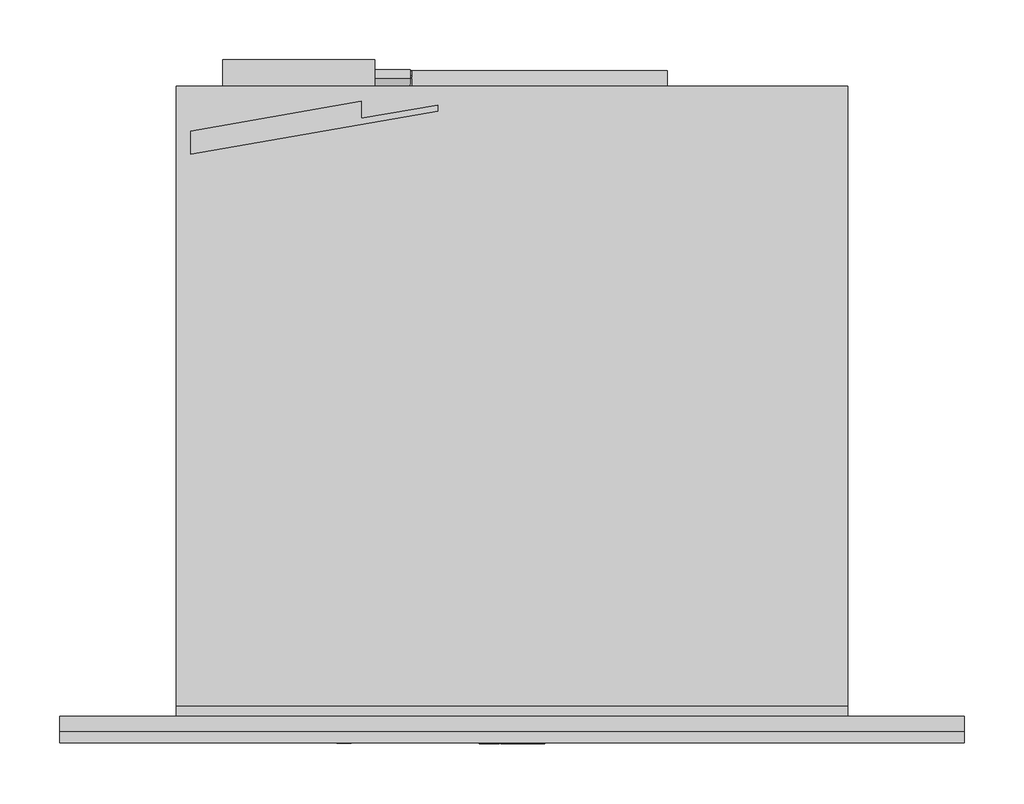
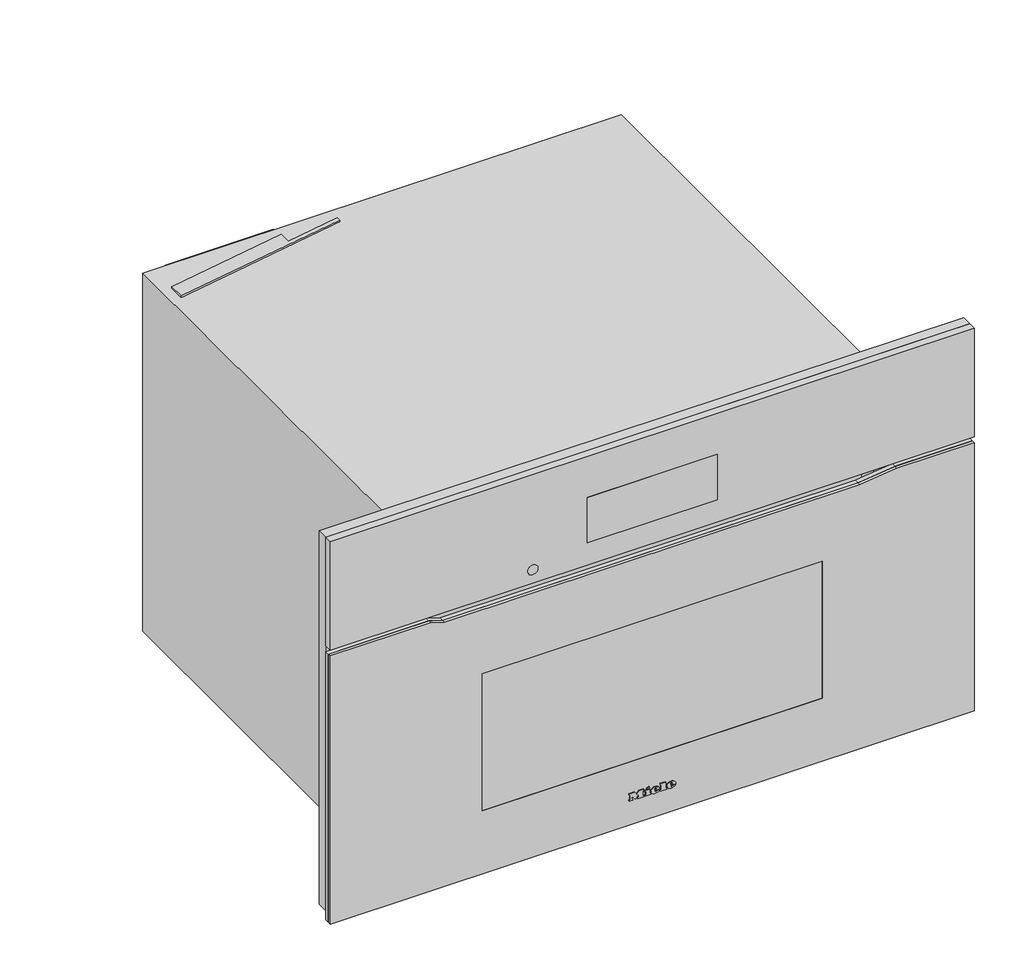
# Not in any storey: 1 proxy.
"""IFC4 building model written with IfcOpenShell, lengths in millimetres."""

import ifcopenshell
import ifcopenshell.guid

model = None  # the IFC model being written
_history = None  # IfcOwnerHistory: only IFC2X3 demands one
_inside = {}  # id of a spatial element -> (the spatial element, [elements in it])
_under = {}  # id of a project, library or spatial element -> (it, [spatial elements below it])
_declared = {}  # id of a project -> (the project, [libraries it declares])
_typed = {}  # id of a type object -> (the type object, [elements of that type])
_made_of = {}  # id of a material, layer set ... -> (it, [elements and type objects made of it])


def new_model(schema):
    """Start an empty IFC model of exactly this schema.

    Asked for "IFC4X3", IfcOpenShell would pick the latest addendum, in which some entities
    have other attributes; the version numbers below select the first issue.
    IFC2X3 requires an IfcOwnerHistory on every rooted entity: one is made here for all.
    """
    global model, _history
    if schema == "IFC4X3":
        model = ifcopenshell.file(schema_version=(4, 3, 0, 0))
    else:
        model = ifcopenshell.file(schema=schema)
    _inside.clear()
    _under.clear()
    _declared.clear()
    _typed.clear()
    _made_of.clear()
    _history = None
    if model.schema == "IFC2X3":
        org = make("IfcOrganization", Name="unknown")
        user = make(
            "IfcPersonAndOrganization",
            ThePerson=make("IfcPerson", FamilyName="unknown"),
            TheOrganization=org,
        )
        app = make(
            "IfcApplication",
            ApplicationDeveloper=org,
            Version="unknown",
            ApplicationFullName="unknown",
            ApplicationIdentifier="unknown",
        )
        _history = make(
            "IfcOwnerHistory",
            OwningUser=user,
            OwningApplication=app,
            ChangeAction="ADDED",
            CreationDate=0,
        )
    return model


def make(cls, **values):
    """One entity of the class cls with the attributes given. An attribute that is None is left unset."""
    return model.create_entity(
        cls, **{name: value for name, value in values.items() if value is not None}
    )


def rooted(cls, **values):
    """An entity with a GlobalId (a new one), such as an element, a storey or a relation."""
    return make(cls, GlobalId=ifcopenshell.guid.new(), OwnerHistory=_history, **values)


def si_unit(unit_type, name, prefix=None):
    """IfcSIUnit, for example si_unit("LENGTHUNIT", "METRE", prefix="MILLI")."""
    return make("IfcSIUnit", UnitType=unit_type, Prefix=prefix, Name=name)


def assignment(units):
    """IfcUnitAssignment: the units of a project."""
    return None if units is None else make("IfcUnitAssignment", Units=units)


def point(xyz):
    """IfcCartesianPoint."""
    return None if xyz is None else make("IfcCartesianPoint", Coordinates=xyz)


def direction(xyz):
    """IfcDirection."""
    return None if xyz is None else make("IfcDirection", DirectionRatios=xyz)


def frame(location, z_axis=None, x_axis=None):
    """IfcAxis2Placement3D, a coordinate frame: its origin and axes. An axis left out is left unset."""
    return make(
        "IfcAxis2Placement3D",
        Location=point(location),
        Axis=direction(z_axis),
        RefDirection=direction(x_axis),
    )


def frame_2d(location, x_axis=None):
    """IfcAxis2Placement2D, a coordinate frame in the plane: its origin and x axis."""
    return make(
        "IfcAxis2Placement2D", Location=point(location), RefDirection=direction(x_axis)
    )


def origin():
    """The frame at (0, 0, 0) with its axes left unset."""
    return frame((0.0, 0.0, 0.0))


def place(relative_to, where):
    """IfcLocalPlacement: puts the frame where relative to a parent placement (None: the world)."""
    return make(
        "IfcLocalPlacement", PlacementRelTo=relative_to, RelativePlacement=where
    )


def context(
    kind, dimensions, precision=None, world=None, true_north=None, identifier=None
):
    """IfcGeometricRepresentationContext, for example the 3D "Model" context."""
    return make(
        "IfcGeometricRepresentationContext",
        ContextIdentifier=identifier,
        ContextType=kind,
        CoordinateSpaceDimension=dimensions,
        Precision=precision,
        WorldCoordinateSystem=world,
        TrueNorth=true_north,
    )


def project(units=None, contexts=None):
    """IfcProject with its units and contexts."""
    return rooted(
        "IfcProject",
        Name="project",
        RepresentationContexts=contexts,
        UnitsInContext=assignment(units),
    )


def spatial(cls, under=None, at=None, **own):
    """A site, building, storey or space (cls), placed at a placement, below another one or the project."""
    s = rooted(cls, ObjectPlacement=at, **own)
    if under is not None:
        _under.setdefault(under.id(), (under, []))[1].append(s)
    return s


def polyline(points):
    """IfcPolyline through the points."""
    return make("IfcPolyline", Points=[point(p) for p in points])


def circle_curve(where, radius):
    """IfcCircle in the frame where."""
    return make("IfcCircle", Position=where, Radius=radius)


def ellipse_curve(where, semi_axis1, semi_axis2):
    """IfcEllipse in the frame where."""
    return make(
        "IfcEllipse", Position=where, SemiAxis1=semi_axis1, SemiAxis2=semi_axis2
    )


def trimmed(basis, trim1, trim2, sense, master):
    """IfcTrimmedCurve: the piece of a basis curve between two trims."""
    return make(
        "IfcTrimmedCurve",
        BasisCurve=basis,
        Trim1=trim1,
        Trim2=trim2,
        SenseAgreement=sense,
        MasterRepresentation=master,
    )


def segment(curve, same_sense, transition):
    """IfcCompositeCurveSegment."""
    return make(
        "IfcCompositeCurveSegment",
        Transition=transition,
        SameSense=same_sense,
        ParentCurve=curve,
    )


def composite_curve(segments, self_intersect=None):
    """IfcCompositeCurve: segments joined end to end."""
    return make("IfcCompositeCurve", Segments=segments, SelfIntersect=self_intersect)


def outline(outer, holes=None, kind="AREA"):
    """IfcArbitraryClosedProfileDef: a profile drawn as a closed curve; with holes, ...WithVoids."""
    if holes is None:
        return make("IfcArbitraryClosedProfileDef", ProfileType=kind, OuterCurve=outer)
    return make(
        "IfcArbitraryProfileDefWithVoids",
        ProfileType=kind,
        OuterCurve=outer,
        InnerCurves=holes,
    )


def extrude(swept, where, along, depth):
    """IfcExtrudedAreaSolid: the profile swept, set in the frame where, extruded along a direction by depth."""
    return make(
        "IfcExtrudedAreaSolid",
        SweptArea=swept,
        Position=where,
        ExtrudedDirection=direction(along),
        Depth=depth,
    )


def faces_of(points, faces, orient=None, outer=None):
    """IfcFace entities. A face is a list of loops; a loop is a list of indices into points, from 0.

    orient and outer hold one flag for each loop. By default every Orientation is true, the
    first loop of a face is its IfcFaceOuterBound and the others are IfcFaceBound.
    """
    made = []
    for i, loops in enumerate(faces):
        bounds = []
        for j, loop in enumerate(loops):
            is_outer = j == 0 if outer is None else outer[i][j]
            bounds.append(
                make(
                    "IfcFaceOuterBound" if is_outer else "IfcFaceBound",
                    Bound=make("IfcPolyLoop", Polygon=[points[k] for k in loop]),
                    Orientation=True if orient is None else orient[i][j],
                )
            )
        made.append(make("IfcFace", Bounds=bounds))
    return made


def faceted_brep(points, faces, orient=None, outer=None, voids=None):
    """IfcFacetedBrep: a solid bounded by flat faces; with voids (closed shells), ...WithVoids."""
    shared = [point(p) for p in points]
    hull = make("IfcClosedShell", CfsFaces=faces_of(shared, faces, orient, outer))
    if voids is None:
        return make("IfcFacetedBrep", Outer=hull)
    return make(
        "IfcFacetedBrepWithVoids",
        Outer=hull,
        Voids=[
            make(cls, CfsFaces=faces_of(shared, fs, o, b)) for cls, fs, o, b in voids
        ],
    )


def shape(context_of_items, identifier, shape_type, items):
    """IfcShapeRepresentation: the items that make up one representation, for example the "Body"."""
    return make(
        "IfcShapeRepresentation",
        ContextOfItems=context_of_items,
        RepresentationIdentifier=identifier,
        RepresentationType=shape_type,
        Items=items,
    )


def source(mapping_origin, context_of_items, identifier, shape_type, items):
    """IfcRepresentationMap: a shape defined once, which mapped items show again and again."""
    return make(
        "IfcRepresentationMap",
        MappingOrigin=mapping_origin,
        MappedRepresentation=shape(context_of_items, identifier, shape_type, items),
    )


def transform(
    local_origin,
    x_axis=None,
    y_axis=None,
    z_axis=None,
    scale=None,
    scale2=None,
    scale3=None,
    uniform=True,
):
    """IfcCartesianTransformationOperator3D, or its non-uniform kind. x_axis, y_axis, z_axis: its Axis1, 2, 3."""
    if uniform:
        return make(
            "IfcCartesianTransformationOperator3D",
            Axis1=direction(x_axis),
            Axis2=direction(y_axis),
            LocalOrigin=point(local_origin),
            Scale=scale,
            Axis3=direction(z_axis),
        )
    return make(
        "IfcCartesianTransformationOperator3DnonUniform",
        Axis1=direction(x_axis),
        Axis2=direction(y_axis),
        LocalOrigin=point(local_origin),
        Scale=scale,
        Axis3=direction(z_axis),
        Scale2=scale2,
        Scale3=scale3,
    )


def mapped(mapping_source, mapping_target):
    """IfcMappedItem: shows the shape of a source again, moved by a transform."""
    return make(
        "IfcMappedItem", MappingSource=mapping_source, MappingTarget=mapping_target
    )


def made_of(thing, what):
    """Note that an element or type object is made of a material, layer set ...; save() writes the relation."""
    if what is not None:
        _made_of.setdefault(what.id(), (what, []))[1].append(thing)
    return thing


def element(
    cls,
    number,
    at=None,
    inside=None,
    cuts=None,
    type_object=None,
    material=None,
    context=None,
    identifier="Body",
    shape_type=None,
    held_by="IfcProductDefinitionShape",
    body=None,
    shapes=None,
    **own,
):
    """One element of the class cls, such as IfcWall. Its Tag is "e" and its number.

    at: its placement. inside: the storey or other place that contains it. cuts: it is an
    opening in that element (IfcRelVoidsElement). A single representation is given by context,
    identifier, shape_type and body (its items); several are given by shapes. held_by: the class
    of the entity that holds the representations. save() writes the other relations.
    """
    e = rooted(cls, Tag="e%d" % number, ObjectPlacement=at, **own)
    if body is not None:
        shapes = [shape(context, identifier, shape_type, body)]
    if shapes is not None:
        e.Representation = make(held_by, Representations=shapes)
    if inside is not None:
        _inside.setdefault(inside.id(), (inside, []))[1].append(e)
    if cuts is not None:
        rooted(
            "IfcRelVoidsElement", RelatingBuildingElement=cuts, RelatedOpeningElement=e
        )
    if type_object is not None:
        _typed.setdefault(type_object.id(), (type_object, []))[1].append(e)
    return made_of(e, material)


def aggregate(whole, parts):
    """IfcRelAggregates: a whole, such as a stair, and the parts it consists of."""
    return rooted("IfcRelAggregates", RelatingObject=whole, RelatedObjects=parts)


def save(model, path):
    """Write the relations noted so far, then the file.

    IfcRelAggregates (storeys below a building ...), IfcRelContainedInSpatialStructure (elements
    in a storey), IfcRelDefinesByType, IfcRelAssociatesMaterial and IfcRelDeclares: one each for
    every whole, place, type object, material and project.
    """
    for whole, parts in _under.values():
        aggregate(whole, parts)
    for where, things in _inside.values():
        rooted(
            "IfcRelContainedInSpatialStructure",
            RelatedElements=things,
            RelatingStructure=where,
        )
    for kind, things in _typed.values():
        rooted("IfcRelDefinesByType", RelatedObjects=things, RelatingType=kind)
    for what, things in _made_of.values():
        rooted("IfcRelAssociatesMaterial", RelatedObjects=things, RelatingMaterial=what)
    for by, libraries in _declared.values():
        rooted("IfcRelDeclares", RelatingContext=by, RelatedDefinitions=libraries)
    model.write(path)


def plane_surface(at):
    """IfcPlane: the flat surface through the origin of the frame at, square to its z axis."""
    return make("IfcPlane", Position=at)


def cylinder_surface(at, radius):
    """IfcCylindricalSurface: all points at the distance radius from the z axis of the frame at."""
    return make("IfcCylindricalSurface", Position=at, Radius=radius)


def revolved_surface(curve, axis_point, axis_direction):
    """IfcSurfaceOfRevolution: the curve turned about the line through axis_point along axis_direction."""
    return make(
        "IfcSurfaceOfRevolution",
        SweptCurve=make("IfcArbitraryOpenProfileDef", ProfileType="CURVE", Curve=curve),
        AxisPosition=make("IfcAxis1Placement", Location=point(axis_point), Axis=direction(axis_direction)),
    )


def extruded_surface(curve, direction_of_extrusion, depth):
    """IfcSurfaceOfLinearExtrusion: the curve pushed along a direction by depth."""
    return make(
        "IfcSurfaceOfLinearExtrusion",
        SweptCurve=make("IfcArbitraryOpenProfileDef", ProfileType="CURVE", Curve=curve),
        ExtrudedDirection=direction(direction_of_extrusion),
        Depth=depth,
    )


def advanced_brep(points, edges, surfaces, faces):
    """IfcAdvancedBrep: a solid bounded by faces that lie on surfaces and meet in shared edges.

    An edge is (start, end): straight between two places in points (the first is 0);
    or (start, end, curve); or (start, end, curve, False) where it runs against its curve.
    A face is (place in surfaces, loops), or (place, loops, False) where it looks against
    its surface's normal. A loop lists edges by number (the first is 1), with a minus sign
    where the edge is run from its end to its start. The first loop is the outer one.
    """
    corners = [point(p) for p in points]
    vertices = [make("IfcVertexPoint", VertexGeometry=c) for c in corners]
    made = []
    for start, end, *more in edges:
        made.append(
            make(
                "IfcEdgeCurve",
                EdgeStart=vertices[start],
                EdgeEnd=vertices[end],
                EdgeGeometry=more[0] if more else make("IfcPolyline", Points=[corners[start], corners[end]]),
                SameSense=more[1] if len(more) > 1 else True,
            )
        )
    hull = []
    for where, loops, *sense in faces:
        bounds = []
        for j, loop in enumerate(loops):
            ring = [make("IfcOrientedEdge", EdgeElement=made[abs(k) - 1], Orientation=k > 0) for k in loop]
            bounds.append(
                make(
                    "IfcFaceOuterBound" if j == 0 else "IfcFaceBound",
                    Bound=make("IfcEdgeLoop", EdgeList=ring),
                    Orientation=True,
                )
            )
        hull.append(make("IfcAdvancedFace", Bounds=bounds, FaceSurface=surfaces[where], SameSense=sense[0] if sense else True))
    return make("IfcAdvancedBrep", Outer=make("IfcClosedShell", CfsFaces=hull))


def specialty_equipment_b06b4cf4(model_context):
    return source(origin(), model_context, "Body", "SolidModel", [
        advanced_brep(
        [(21.28, -23.0, 36.133), (21.28, -23.0, 37.042), (27.301, -23.0, 37.042), (16.825, -23.0, 37.042), (19.3, -23.0, 34.0), (27.148, -23.0, 36.133), (24.43, -23.0, 36.133), (22.288, -23.0, 35.125), (21.28, -23.0, 38.194), (21.28, -23.0, 39.175), (22.819, -23.0, 39.175), (22.819, -23.0, 38.194), (21.28, -22.0, 36.133), (22.288, -22.0, 35.125), (24.43, -22.0, 36.133), (27.148, -22.0, 36.133), (19.3, -22.0, 34.0), (16.825, -22.0, 37.042), (27.301, -22.0, 37.042), (21.28, -22.0, 37.042), (21.28, -22.0, 38.194), (22.819, -22.0, 38.194), (22.819, -22.0, 39.175), (21.28, -22.0, 39.175)],
        [
            (0, 1),
            (1, 2),
            (2, 3, ellipse_curve(frame((22.063, -23.0, 37.042), z_axis=(0.0, -1.0, 0.0), x_axis=(-1.0, 0.0, 0.0)), 5.238, 4.329)),
            (3, 4, circle_curve(frame((20.3080491, -23.0, 37.348), z_axis=(0.0, -1.0, 0.0), x_axis=(0.0, 0.0, -1.0)), 3.4964649)),
            (4, 5, circle_curve(frame((21.9581428, -23.0, 39.724), z_axis=(0.0, -1.0, 0.0), x_axis=(0.0, 0.0, -1.0)), 6.3110933)),
            (5, 6),
            (6, 7, circle_curve(frame((22.7279412, -23.0, 36.97), z_axis=(0.0, 1.0, 0.0), x_axis=(0.0, 0.0, -1.0)), 1.896727)),
            (7, 0, circle_curve(frame((22.288, -23.0, 36.133), z_axis=(0.0, 1.0, 0.0), x_axis=(0.0, 0.0, -1.0)), 1.008)),
            (8, 9),
            (9, 10, circle_curve(frame((22.0495, -23.0, 39.175), z_axis=(0.0, 1.0, 0.0), x_axis=(0.0, 0.0, -1.0)), 0.7695)),
            (10, 11),
            (11, 8),
            (12, 13, circle_curve(frame((22.288, -22.0, 36.133), z_axis=(0.0, -1.0, 0.0), x_axis=(0.0, 0.0, -1.0)), 1.008)),
            (13, 14, circle_curve(frame((22.7279412, -22.0, 36.97), z_axis=(0.0, -1.0, 0.0), x_axis=(0.0, 0.0, -1.0)), 1.896727)),
            (14, 15),
            (15, 16, circle_curve(frame((21.9581428, -22.0, 39.724), z_axis=(0.0, 1.0, 0.0), x_axis=(0.0, 0.0, -1.0)), 6.3110933)),
            (16, 17, circle_curve(frame((20.3080491, -22.0, 37.348), z_axis=(0.0, 1.0, 0.0), x_axis=(0.0, 0.0, -1.0)), 3.4964649)),
            (17, 18, ellipse_curve(frame((22.063, -22.0, 37.042), z_axis=(0.0, 1.0, 0.0), x_axis=(-1.0, 0.0, 0.0)), 5.238, 4.329)),
            (18, 19),
            (19, 12),
            (20, 21),
            (21, 22),
            (22, 23, circle_curve(frame((22.0495, -22.0, 39.175), z_axis=(0.0, -1.0, 0.0), x_axis=(0.0, 0.0, -1.0)), 0.7695)),
            (23, 20),
            (0, 12),
            (19, 1),
            (18, 2),
            (5, 15),
            (14, 6),
            (17, 3),
            (13, 7),
            (16, 4),
            (8, 20),
            (23, 9),
            (22, 10),
            (21, 11),
        ],
        [
            plane_surface(frame((21.28, -23.0, 37.042), z_axis=(0.0, -1.0, 0.0), x_axis=(0.0, 0.0, 1.0))),
            plane_surface(frame((21.28, -22.0, 37.042), z_axis=(0.0, 1.0, 0.0), x_axis=(0.0, 0.0, -1.0))),
            plane_surface(frame((21.28, -23.0, 36.133), z_axis=(1.0, 0.0, 0.0), x_axis=(0.0, 1.0, 0.0))),
            plane_surface(frame((21.28, -23.0, 37.042), z_axis=(0.0, 0.0, -1.0), x_axis=(0.0, 1.0, 0.0))),
            plane_surface(frame((27.148, -23.0, 36.133), z_axis=(0.0, 0.0, 1.0), x_axis=(0.0, 1.0, 0.0))),
            extruded_surface(trimmed(ellipse_curve(frame((22.063, -21.0, 37.042), z_axis=(0.0, -1.0, 0.0), x_axis=(-1.0, 0.0, 0.0)), 5.238, 4.329), [point((27.301, -21.0, 37.042))], [point((16.825, -21.0, 37.042))], True, "CARTESIAN"), (0.0, -1.0, 0.0), 1.0),
            revolved_surface(polyline([(22.7279412, -22.0, 35.073273), (22.7279412, -23.0, 35.073273)]), (22.7279412, -22.0, 36.97), (0.0, 1.0, 0.0)),
            revolved_surface(polyline([(22.288, -22.0, 35.125), (22.288, -23.0, 35.125)]), (22.288, -22.0, 36.133), (0.0, 1.0, 0.0)),
            cylinder_surface(frame((20.3080491, -22.0, 37.348), z_axis=(0.0, -1.0, 0.0), x_axis=(0.0, 0.0, -1.0)), 3.4964649),
            cylinder_surface(frame((21.9581428, -22.0, 39.724), z_axis=(0.0, -1.0, 0.0), x_axis=(0.0, 0.0, -1.0)), 6.3110933),
            plane_surface(frame((21.28, -23.0, 38.194), z_axis=(1.0, 0.0, 0.0), x_axis=(0.0, 1.0, 0.0))),
            revolved_surface(polyline([(22.0495, -22.0, 38.405499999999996), (22.0495, -23.0, 38.405499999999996)]), (22.0495, -22.0, 39.175), (0.0, 1.0, 0.0)),
            plane_surface(frame((22.819, -23.0, 39.175), z_axis=(-1.0, 0.0, 0.0), x_axis=(0.0, 1.0, 0.0))),
            plane_surface(frame((22.819, -23.0, 38.194), z_axis=(0.0, 0.0, 1.0), x_axis=(0.0, 1.0, 0.0))),
        ],
        [
            (0, [[1, 2, 3, 4, 5, 6, 7, 8], [9, 10, 11, 12]]),
            (1, [[13, 14, 15, 16, 17, 18, 19, 20], [21, 22, 23, 24]]),
            (2, [[-1, 25, -20, 26]]),
            (3, [[-2, -26, -19, 27]]),
            (4, [[-6, 28, -15, 29]]),
            (5, [[-3, -27, -18, 30]]),
            (6, [[-7, -29, -14, 31]]),
            (7, [[-8, -31, -13, -25]]),
            (8, [[-4, -30, -17, 32]]),
            (9, [[-5, -32, -16, -28]]),
            (10, [[-9, 33, -24, 34]]),
            (11, [[-10, -34, -23, 35]]),
            (12, [[-11, -35, -22, 36]]),
            (13, [[-12, -36, -21, -33]]),
        ],
    ),
        advanced_brep(
        [(2.497, -23.0, 36.133), (2.497, -23.0, 37.042), (8.518, -23.0, 37.042), (-1.958, -23.0, 37.042), (0.517, -23.0, 34.0), (8.365, -23.0, 36.133), (5.647, -23.0, 36.133), (3.505, -23.0, 35.125), (2.497, -23.0, 38.194), (2.497, -23.0, 39.175), (4.036, -23.0, 39.175), (4.036, -23.0, 38.194), (2.497, -22.0, 36.133), (3.505, -22.0, 35.125), (5.647, -22.0, 36.133), (8.365, -22.0, 36.133), (0.517, -22.0, 34.0), (-1.958, -22.0, 37.042), (8.518, -22.0, 37.042), (2.497, -22.0, 37.042), (2.497, -22.0, 38.194), (4.036, -22.0, 38.194), (4.036, -22.0, 39.175), (2.497, -22.0, 39.175)],
        [
            (0, 1),
            (1, 2),
            (2, 3, ellipse_curve(frame((3.28, -23.0, 37.042), z_axis=(0.0, -1.0, 0.0), x_axis=(-1.0, 0.0, 0.0)), 5.238, 4.329)),
            (3, 4, circle_curve(frame((1.5250491, -23.0, 37.348), z_axis=(0.0, -1.0, 0.0), x_axis=(0.0, 0.0, -1.0)), 3.4964649)),
            (4, 5, circle_curve(frame((3.1751428, -23.0, 39.724), z_axis=(0.0, -1.0, 0.0), x_axis=(0.0, 0.0, -1.0)), 6.3110933)),
            (5, 6),
            (6, 7, circle_curve(frame((3.9449412, -23.0, 36.97), z_axis=(0.0, 1.0, 0.0), x_axis=(0.0, 0.0, -1.0)), 1.896727)),
            (7, 0, circle_curve(frame((3.505, -23.0, 36.133), z_axis=(0.0, 1.0, 0.0), x_axis=(0.0, 0.0, -1.0)), 1.008)),
            (8, 9),
            (9, 10, circle_curve(frame((3.2665, -23.0, 39.175), z_axis=(0.0, 1.0, 0.0), x_axis=(0.0, 0.0, -1.0)), 0.7695)),
            (10, 11),
            (11, 8),
            (12, 13, circle_curve(frame((3.505, -22.0, 36.133), z_axis=(0.0, -1.0, 0.0), x_axis=(0.0, 0.0, -1.0)), 1.008)),
            (13, 14, circle_curve(frame((3.9449412, -22.0, 36.97), z_axis=(0.0, -1.0, 0.0), x_axis=(0.0, 0.0, -1.0)), 1.896727)),
            (14, 15),
            (15, 16, circle_curve(frame((3.1751428, -22.0, 39.724), z_axis=(0.0, 1.0, 0.0), x_axis=(0.0, 0.0, -1.0)), 6.3110933)),
            (16, 17, circle_curve(frame((1.5250491, -22.0, 37.348), z_axis=(0.0, 1.0, 0.0), x_axis=(0.0, 0.0, -1.0)), 3.4964649)),
            (17, 18, ellipse_curve(frame((3.28, -22.0, 37.042), z_axis=(0.0, 1.0, 0.0), x_axis=(-1.0, 0.0, 0.0)), 5.238, 4.329)),
            (18, 19),
            (19, 12),
            (20, 21),
            (21, 22),
            (22, 23, circle_curve(frame((3.2665, -22.0, 39.175), z_axis=(0.0, -1.0, 0.0), x_axis=(0.0, 0.0, -1.0)), 0.7695)),
            (23, 20),
            (0, 12),
            (19, 1),
            (18, 2),
            (5, 15),
            (14, 6),
            (17, 3),
            (13, 7),
            (16, 4),
            (8, 20),
            (23, 9),
            (22, 10),
            (21, 11),
        ],
        [
            plane_surface(frame((2.497, -23.0, 37.042), z_axis=(0.0, -1.0, 0.0), x_axis=(0.0, 0.0, 1.0))),
            plane_surface(frame((2.497, -22.0, 37.042), z_axis=(0.0, 1.0, 0.0), x_axis=(0.0, 0.0, -1.0))),
            plane_surface(frame((2.497, -23.0, 36.133), z_axis=(1.0, 0.0, 0.0), x_axis=(0.0, 1.0, 0.0))),
            plane_surface(frame((2.497, -23.0, 37.042), z_axis=(0.0, 0.0, -1.0), x_axis=(0.0, 1.0, 0.0))),
            plane_surface(frame((8.365, -23.0, 36.133), z_axis=(0.0, 0.0, 1.0), x_axis=(0.0, 1.0, 0.0))),
            extruded_surface(trimmed(ellipse_curve(frame((3.28, -21.0, 37.042), z_axis=(0.0, -1.0, 0.0), x_axis=(-1.0, 0.0, 0.0)), 5.238, 4.329), [point((8.518, -21.0, 37.042))], [point((-1.958, -21.0, 37.042))], True, "CARTESIAN"), (0.0, -1.0, 0.0), 1.0),
            revolved_surface(polyline([(3.9449412, -22.0, 35.073273), (3.9449412, -23.0, 35.073273)]), (3.9449412, -22.0, 36.97), (0.0, 1.0, 0.0)),
            revolved_surface(polyline([(3.505, -22.0, 35.125), (3.505, -23.0, 35.125)]), (3.505, -22.0, 36.133), (0.0, 1.0, 0.0)),
            cylinder_surface(frame((1.5250491, -22.0, 37.348), z_axis=(0.0, -1.0, 0.0), x_axis=(0.0, 0.0, -1.0)), 3.4964649),
            cylinder_surface(frame((3.1751428, -22.0, 39.724), z_axis=(0.0, -1.0, 0.0), x_axis=(0.0, 0.0, -1.0)), 6.3110933),
            plane_surface(frame((2.497, -23.0, 38.194), z_axis=(1.0, 0.0, 0.0), x_axis=(0.0, 1.0, 0.0))),
            revolved_surface(polyline([(3.2665, -22.0, 38.405499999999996), (3.2665, -23.0, 38.405499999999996)]), (3.2665, -22.0, 39.175), (0.0, 1.0, 0.0)),
            plane_surface(frame((4.036, -23.0, 39.175), z_axis=(-1.0, 0.0, 0.0), x_axis=(0.0, 1.0, 0.0))),
            plane_surface(frame((4.036, -23.0, 38.194), z_axis=(0.0, 0.0, 1.0), x_axis=(0.0, 1.0, 0.0))),
        ],
        [
            (0, [[1, 2, 3, 4, 5, 6, 7, 8], [9, 10, 11, 12]]),
            (1, [[13, 14, 15, 16, 17, 18, 19, 20], [21, 22, 23, 24]]),
            (2, [[-1, 25, -20, 26]]),
            (3, [[-2, -26, -19, 27]]),
            (4, [[-6, 28, -15, 29]]),
            (5, [[-3, -27, -18, 30]]),
            (6, [[-7, -29, -14, 31]]),
            (7, [[-8, -31, -13, -25]]),
            (8, [[-4, -30, -17, 32]]),
            (9, [[-5, -32, -16, -28]]),
            (10, [[-9, 33, -24, 34]]),
            (11, [[-10, -34, -23, 35]]),
            (12, [[-11, -35, -22, 36]]),
            (13, [[-12, -36, -21, -33]]),
        ],
    ),
        extrude(outline(polyline([(42.469, -7.34), (41.011, -6.656), (42.433, -3.605), (43.891, -4.28), (42.469, -7.34)])), frame((0.0, -23.0, 0.0), z_axis=(0.0, 1.0, 0.0), x_axis=(0.0, 0.0, 1.0)), (0.0, 0.0, 1.0), 1.0),
        extrude(outline(polyline([(40.813, -9.563), (39.202, -9.563), (39.202, -8.492), (35.512, -8.492), (35.512, -9.563), (34.0, -9.563), (34.0, -2.462), (35.512, -2.462), (35.512, -3.506), (40.813, -3.506), (40.813, -9.563)])), frame((0.0, -23.0, 0.0), z_axis=(0.0, 1.0, 0.0), x_axis=(0.0, 0.0, 1.0)), (0.0, 0.0, 1.0), 1.0),
        extrude(outline(polyline([(41.533, 9.022), (41.533, 10.102), (35.512, 10.102), (35.512, 9.022), (34.0, 9.022), (34.0, 16.321), (35.512, 16.321), (35.512, 15.214), (43.0, 15.214), (43.0, 9.022), (41.533, 9.022)])), frame((0.0, -23.0, 0.0), z_axis=(0.0, 1.0, 0.0), x_axis=(0.0, 0.0, 1.0)), (0.0, 0.0, 1.0), 1.0),
        extrude(outline(polyline([(41.533, -27.5), (41.533, -26.411), (35.512, -26.411), (35.512, -27.5), (34.0, -27.5), (34.0, -23.54), (35.512, -23.54), (35.512, -24.62), (39.3341247, -24.62), (34.0, -20.597), (39.4402223, -16.556), (35.512, -16.556), (35.512, -17.663), (34.0, -17.663), (34.0, -10.481), (35.512, -10.481), (35.512, -11.624), (41.533, -11.624), (41.533, -10.481), (43.0, -10.481), (43.0, -15.962), (39.625, -18.59), (43.0, -21.227), (43.0, -27.5), (41.533, -27.5)])), frame((0.0, -23.0, 0.0), z_axis=(0.0, 1.0, 0.0), x_axis=(0.0, 0.0, 1.0)), (0.0, 0.0, 1.0), 1.0),
        extrude(outline(polyline([(337.0, -378.5), (4.0, -378.5), (4.0, 378.5), (337.0, 378.5), (337.0, 287.3542631), (332.0, 244.0), (332.0, -244.0), (337.0, -260.3542631), (337.0, -378.5)])), frame((0.0, -18.0, 0.0), z_axis=(0.0, 1.0, 0.0), x_axis=(0.0, 0.0, 1.0)), (0.0, 0.0, 1.0), 5.0),
        extrude(outline(polyline([(337.0, -378.5), (4.0, -378.5), (4.0, 378.5), (337.0, 378.5), (337.0, 287.3542631), (332.0, 244.0), (332.0, -244.0), (337.0, -260.3542631), (337.0, -378.5)]), holes=[polyline([(252.0, 199.5), (82.0, 199.5), (82.0, -199.5), (252.0, -199.5), (252.0, 199.5)])]), frame((0.0, -22.0, 0.0), z_axis=(0.0, 1.0, 0.0), x_axis=(0.0, 0.0, 1.0)), (0.0, 0.0, 1.0), 4.0),
        extrude(outline(polyline([(-199.5, -18.0), (199.5, -18.0), (199.5, -22.0), (-199.5, -22.0), (-199.5, -18.0)])), frame((0.0, 0.0, 82.0), z_axis=(0.0, 0.0, 1.0), x_axis=(1.0, 0.0, 0.0)), (0.0, 0.0, 1.0), 170.0),
        extrude(outline(polyline([(-76.5, -21.0), (76.5, -21.0), (76.5, -22.0), (-76.5, -22.0), (-76.5, -21.0)])), frame((0.0, 0.0, 372.0), z_axis=(0.0, 0.0, 1.0), x_axis=(1.0, 0.0, 0.0)), (0.0, 0.0, 1.0), 56.0),
        faceted_brep([(378.5, -13.0, 479.0), (378.5, -13.0, 344.0), (-378.5, -13.0, 344.0), (-378.5, -13.0, 479.0), (378.5, -22.0, 344.0), (-378.5, -22.0, 344.0), (378.5, -22.0, 479.0), (-378.5, -22.0, 479.0), (76.5, -22.0, 428.0), (76.5, -22.0, 372.0), (-76.5, -22.0, 372.0), (-76.5, -22.0, 428.0), (-76.5, -21.0, 372.0), (-76.5, -21.0, 428.0), (76.5, -21.0, 428.0), (76.5, -21.0, 372.0)], [[[0, 1, 2, 3]], [[4, 5, 2, 1]], [[6, 7, 5, 4], [8, 9, 10, 11]], [[12, 13, 11, 10]], [[13, 14, 8, 11]], [[7, 6, 0, 3]], [[5, 7, 3, 2]], [[6, 4, 1, 0]], [[14, 13, 12, 15]], [[14, 15, 9, 8]], [[15, 12, 10, 9]]]),
        extrude(outline(composite_curve([segment(trimmed(circle_curve(frame_2d((361.0, -140.5745637)), 6.0), [point((361.0, -146.5745637))], [point((361.0, -134.5745637))], False, "CARTESIAN"), True, "CONTINUOUS"), segment(trimmed(circle_curve(frame_2d((361.0, -140.5745637)), 6.0), [point((361.0, -134.5745637))], [point((361.0, -146.5745637))], False, "CARTESIAN"), True, "CONTINUOUS")], self_intersect=False)), frame((0.0, -22.5, 0.0), z_axis=(0.0, 1.0, 0.0), x_axis=(0.0, 0.0, 1.0)), (0.0, 0.0, 1.0), 1.0),
        extrude(outline(polyline([(-269.0, 490.2851942), (-126.0, 515.1547594), (-126.0, 500.9446163), (-62.0, 512.0750511), (-62.0, 507.0), (-269.0, 471.0), (-269.0, 490.2851942)])), frame((0.0, 0.0, 445.0), z_axis=(0.0, 0.0, 1.0), x_axis=(1.0, 0.0, 0.0)), (0.0, 0.0, 1.0), 2.0),
        extrude(outline(polyline([(528.134837, 358.3256163), (533.9911721, 358.3256163), (533.9911721, 357.3256163), (529.134837, 357.3256163), (529.134837, 353.8256163), (532.0849866, 353.8256163), (532.0849866, 352.8256163), (529.134837, 352.8256163), (529.134837, 349.3256163), (533.9911721, 349.3256163), (533.9911721, 348.3256163), (528.134837, 348.3256163), (528.134837, 358.3256163)])), frame((-85.0, 0.0, 0.0), z_axis=(1.0, 0.0, 0.0), x_axis=(0.0, 1.0, 0.0)), (0.0, 0.0, 1.0), 1.0),
        extrude(outline(polyline([(535.4911721, 348.3256163), (535.4911721, 358.3256163), (536.5959622, 358.3256163), (536.5959622, 349.3256163), (540.4911721, 349.3256163), (540.4911721, 348.3256163), (535.4911721, 348.3256163)])), frame((-85.0, 0.0, 0.0), z_axis=(1.0, 0.0, 0.0), x_axis=(0.0, 1.0, 0.0)), (0.0, 0.0, 1.0), 1.0),
        extrude(outline(composite_curve([segment(trimmed(circle_curve(frame_2d((534.0, 353.0)), 7.5), [point((534.0, 345.5))], [point((534.0, 360.5))], False, "CARTESIAN"), True, "CONTINUOUS"), segment(trimmed(circle_curve(frame_2d((534.0, 353.0)), 7.5), [point((534.0, 360.5))], [point((534.0, 345.5))], False, "CARTESIAN"), True, "CONTINUOUS")], self_intersect=False)), frame((-115.0, 0.0, 0.0), z_axis=(1.0, 0.0, 0.0), x_axis=(0.0, 1.0, 0.0)), (0.0, 0.0, 1.0), 30.0),
        extrude(outline(polyline([(-115.0, 528.0), (-242.0, 528.0), (-242.0, 550.0), (-115.0, 550.0), (-115.0, 528.0)])), frame((0.0, 0.0, 325.0), z_axis=(0.0, 0.0, 1.0), x_axis=(1.0, 0.0, 0.0)), (0.0, 0.0, 1.0), 103.0),
        faceted_brep([(272.5, 25.0, 344.0), (-272.5, 25.0, 344.0), (-272.5, 25.0, 15.0), (272.5, 25.0, 15.0), (-235.0, 25.0, 270.0), (235.0, 25.0, 270.0), (235.0, 25.0, 60.0), (-235.0, 25.0, 60.0), (272.5, 0.0, 344.0), (-272.5, 0.0, 344.0), (-272.5, 0.0, 15.0), (272.5, 0.0, 15.0), (281.0, 0.0, 0.0), (281.0, 528.0, 0.0), (281.0, 528.0, 445.0), (281.0, 9.0, 445.0), (281.0, 9.0, 440.0), (281.0, 0.0, 440.0), (-281.0, 9.0, 445.0), (-281.0, 528.0, 445.0), (-281.0, 528.0, 0.0), (-281.0, 0.0, 0.0), (-281.0, 0.0, 440.0), (-281.0, 9.0, 440.0), (235.0, 433.0, 270.0), (-235.0, 433.0, 270.0), (-235.0, 433.0, 60.0), (235.0, 433.0, 60.0)], [[[0, 1, 2, 3], [4, 5, 6, 7]], [[1, 0, 8, 9]], [[2, 1, 9, 10]], [[0, 3, 11, 8]], [[12, 13, 14, 15, 16, 17]], [[18, 19, 20, 21, 22, 23]], [[13, 12, 21, 20]], [[14, 13, 20, 19]], [[15, 14, 19, 18]], [[21, 12, 17, 22], [9, 8, 11, 10]], [[24, 25, 26, 27]], [[25, 24, 5, 4]], [[26, 25, 4, 7]], [[27, 26, 7, 6]], [[24, 27, 6, 5]], [[3, 2, 10, 11]], [[16, 23, 22, 17]], [[23, 16, 15, 18]]]),
        extrude(outline(polyline([(130.0, 528.0), (-130.0, 528.0), (-130.0, 541.0), (130.0, 541.0), (130.0, 528.0)])), frame((0.0, 0.0, 36.0), z_axis=(0.0, 0.0, 1.0), x_axis=(1.0, 0.0, 0.0)), (0.0, 0.0, 1.0), 260.0),
        extrude(outline(polyline([(15.0, 378.5), (479.0, 378.5), (479.0, -378.5), (15.0, -378.5), (15.0, -272.5), (344.0, -272.5), (344.0, 272.5), (15.0, 272.5), (15.0, 378.5)])), frame((0.0, -13.0, 0.0), z_axis=(0.0, 1.0, 0.0), x_axis=(0.0, 0.0, 1.0)), (0.0, 0.0, 1.0), 13.0),
    ])


model = new_model("IFC4")

# Units and contexts
model_context = context("Model", 3, world=origin())
ifc_project = project(units=[si_unit("LENGTHUNIT", "METRE", prefix="MILLI")], contexts=[model_context])

# Site, building
site = spatial("IfcSite", under=ifc_project)
building = spatial("IfcBuilding", under=site)

# Proxy
placement = place(None, origin())
specialty_equipment_shape = specialty_equipment_b06b4cf4(model_context)
element("IfcBuildingElementProxy", 1, Name="12842590_USA_H7870BMX_OBSW : 22787066_USA_12842590_H7870BMX_OBSW", ObjectType="12842590_USA_H7870BMX_OBSW : 22787066_USA_12842590_H7870BMX_OBSW", at=placement, inside=building, context=model_context, shape_type="MappedRepresentation", body=[
    mapped(specialty_equipment_shape, transform((0.0, 0.0, 0.0), x_axis=(1.0, 0.0, 0.0), y_axis=(0.0, 1.0, 0.0), z_axis=(0.0, 0.0, 1.0))),
])

save(model, "model.ifc")
